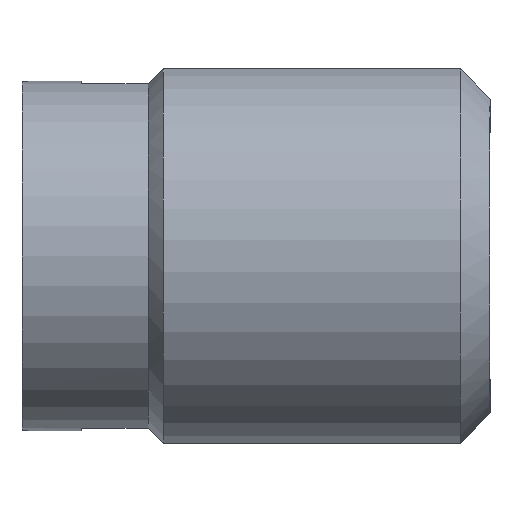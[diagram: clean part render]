
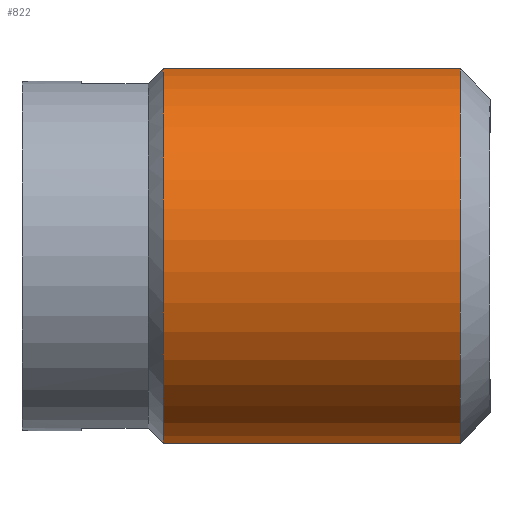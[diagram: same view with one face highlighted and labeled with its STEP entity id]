
A CAD part, front view. The second image highlights one B-rep face of the part: STEP entity #822.
In plain terms, the highlighted cylindrical face has radius 2.55 mm (diameter 5.1 mm), a partial arc.
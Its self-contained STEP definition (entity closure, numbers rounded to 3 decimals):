
#8 = CARTESIAN_POINT ( 'NONE',  ( -0.4, -0.4, 2.518 ) ) ;
#30 = CARTESIAN_POINT ( 'NONE',  ( -4.4, -0.4, 2.518 ) ) ;
#98 = VERTEX_POINT ( 'NONE', #30 ) ;
#113 = LINE ( 'NONE', #435, #207 ) ;
#114 = ORIENTED_EDGE ( 'NONE', *, *, #217, .T. ) ;
#138 = AXIS2_PLACEMENT_3D ( 'NONE', #262, #376, #765 ) ;
#144 = DIRECTION ( 'NONE',  ( 0., 0., -1. ) ) ;
#168 = AXIS2_PLACEMENT_3D ( 'NONE', #586, #729, #144 ) ;
#190 = CARTESIAN_POINT ( 'NONE',  ( -4.4, -0.4, -2.518 ) ) ;
#207 = VECTOR ( 'NONE', #478, 1000. ) ;
#216 = CARTESIAN_POINT ( 'NONE',  ( -0.4, -0.4, -2.518 ) ) ;
#217 = EDGE_CURVE ( 'NONE', #98, #550, #815, .T. ) ;
#220 = DIRECTION ( 'NONE',  ( 1., 0., 0. ) ) ;
#242 = CARTESIAN_POINT ( 'NONE',  ( 11.788, -0.4, 2.518 ) ) ;
#260 = VECTOR ( 'NONE', #301, 1000. ) ;
#262 = CARTESIAN_POINT ( 'NONE',  ( -4.4, 0., 0. ) ) ;
#301 = DIRECTION ( 'NONE',  ( 1., 0., 0. ) ) ;
#324 = VERTEX_POINT ( 'NONE', #8 ) ;
#327 = ORIENTED_EDGE ( 'NONE', *, *, #781, .T. ) ;
#374 = VERTEX_POINT ( 'NONE', #216 ) ;
#376 = DIRECTION ( 'NONE',  ( 1., 0., 0. ) ) ;
#378 = ORIENTED_EDGE ( 'NONE', *, *, #502, .F. ) ;
#435 = CARTESIAN_POINT ( 'NONE',  ( 11.788, -0.4, -2.518 ) ) ;
#460 = EDGE_CURVE ( 'NONE', #98, #324, #542, .T. ) ;
#472 = DIRECTION ( 'NONE',  ( 0., 0., -1. ) ) ;
#478 = DIRECTION ( 'NONE',  ( -1., 0., 0. ) ) ;
#502 = EDGE_CURVE ( 'NONE', #374, #550, #113, .T. ) ;
#521 = CYLINDRICAL_SURFACE ( 'NONE', #639, 2.55 ) ;
#537 = FACE_OUTER_BOUND ( 'NONE', #721, .T. ) ;
#542 = LINE ( 'NONE', #242, #260 ) ;
#550 = VERTEX_POINT ( 'NONE', #190 ) ;
#586 = CARTESIAN_POINT ( 'NONE',  ( -0.4, 0., 0. ) ) ;
#639 = AXIS2_PLACEMENT_3D ( 'NONE', #650, #220, #472 ) ;
#650 = CARTESIAN_POINT ( 'NONE',  ( 11.788, 0., 0. ) ) ;
#678 = CIRCLE ( 'NONE', #168, 2.55 ) ;
#721 = EDGE_LOOP ( 'NONE', ( #378, #327, #753, #114 ) ) ;
#729 = DIRECTION ( 'NONE',  ( -1., 0., 0. ) ) ;
#753 = ORIENTED_EDGE ( 'NONE', *, *, #460, .F. ) ;
#765 = DIRECTION ( 'NONE',  ( 0., 0., -1. ) ) ;
#781 = EDGE_CURVE ( 'NONE', #374, #324, #678, .T. ) ;
#815 = CIRCLE ( 'NONE', #138, 2.55 ) ;
#822 = ADVANCED_FACE ( 'NONE', ( #537 ), #521, .T. ) ;
